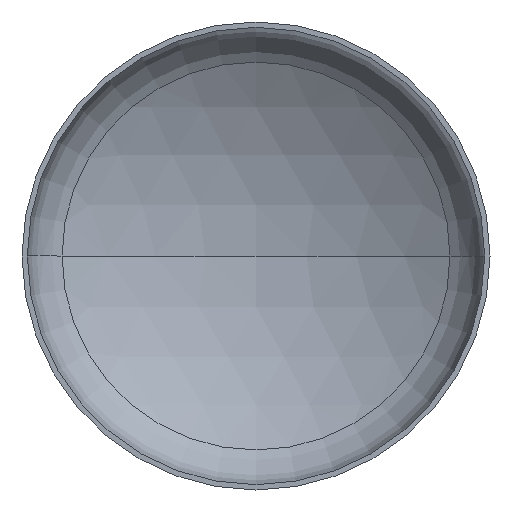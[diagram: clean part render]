
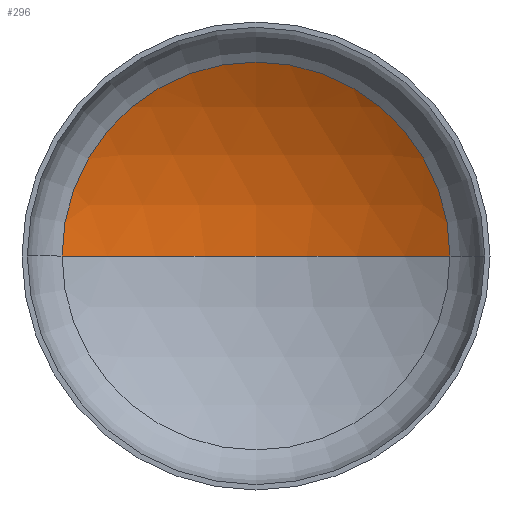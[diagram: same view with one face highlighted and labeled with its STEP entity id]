
A CAD part, front view. The second image highlights one B-rep face of the part: STEP entity #296.
In plain terms, the highlighted spherical face has radius 5200 mm.
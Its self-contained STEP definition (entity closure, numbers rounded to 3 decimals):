
#1 = ORIENTED_EDGE ( 'NONE', *, *, #210, .F. ) ;
#14 = VERTEX_POINT ( 'NONE', #277 ) ;
#48 = AXIS2_PLACEMENT_3D ( 'NONE', #226, #189, #187 ) ;
#52 = VERTEX_POINT ( 'NONE', #137 ) ;
#57 = ORIENTED_EDGE ( 'NONE', *, *, #246, .T. ) ;
#72 = ORIENTED_EDGE ( 'NONE', *, *, #223, .T. ) ;
#74 = EDGE_LOOP ( 'NONE', ( #1, #72, #57 ) ) ;
#77 = VERTEX_POINT ( 'NONE', #304 ) ;
#104 = DIRECTION ( 'NONE',  ( 0., -1., 0. ) ) ;
#137 = CARTESIAN_POINT ( 'NONE',  ( 0., 1727.644, 0. ) ) ;
#187 = DIRECTION ( 'NONE',  ( -1., 0., 0. ) ) ;
#189 = DIRECTION ( 'NONE',  ( 0., 0., -1. ) ) ;
#195 = DIRECTION ( 'NONE',  ( 1., 0., 0. ) ) ;
#198 = CARTESIAN_POINT ( 'NONE',  ( 0., -3472.356, 0. ) ) ;
#203 = CIRCLE ( 'NONE', #48, 5200. ) ;
#210 = EDGE_CURVE ( 'NONE', #52, #14, #218, .T. ) ;
#215 = AXIS2_PLACEMENT_3D ( 'NONE', #220, #341, #221 ) ;
#218 = CIRCLE ( 'NONE', #395, 5200. ) ;
#220 = CARTESIAN_POINT ( 'NONE',  ( 0., -3472.356, 0. ) ) ;
#221 = DIRECTION ( 'NONE',  ( -1., 0., 0. ) ) ;
#223 = EDGE_CURVE ( 'NONE', #52, #77, #203, .T. ) ;
#226 = CARTESIAN_POINT ( 'NONE',  ( 0., -3472.356, 0. ) ) ;
#240 = DIRECTION ( 'NONE',  ( 0., 0., 1. ) ) ;
#246 = EDGE_CURVE ( 'NONE', #77, #14, #399, .T. ) ;
#267 = FACE_OUTER_BOUND ( 'NONE', #74, .T. ) ;
#277 = CARTESIAN_POINT ( 'NONE',  ( -2694.095, 975.323, 0. ) ) ;
#296 = ADVANCED_FACE ( 'NONE', ( #267 ), #327, .F. ) ;
#304 = CARTESIAN_POINT ( 'NONE',  ( 2694.095, 975.323, 0. ) ) ;
#327 = SPHERICAL_SURFACE ( 'NONE', #215, 5200. ) ;
#328 = CARTESIAN_POINT ( 'NONE',  ( 0., 975.323, 0. ) ) ;
#339 = DIRECTION ( 'NONE',  ( 1., 0., 0. ) ) ;
#341 = DIRECTION ( 'NONE',  ( 0., 0., -1. ) ) ;
#395 = AXIS2_PLACEMENT_3D ( 'NONE', #198, #240, #195 ) ;
#399 = CIRCLE ( 'NONE', #408, 2694.095 ) ;
#408 = AXIS2_PLACEMENT_3D ( 'NONE', #328, #104, #339 ) ;
